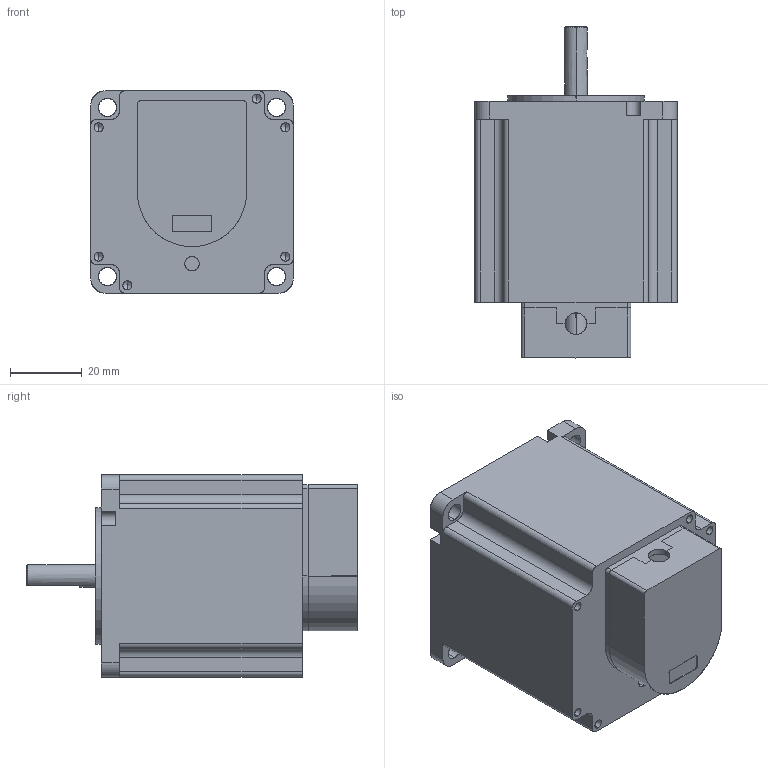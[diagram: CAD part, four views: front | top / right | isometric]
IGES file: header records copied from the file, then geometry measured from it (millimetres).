
Start section: SolidWorks IGES file using analytic representation for surfaces
Global section: file name: C:\Users\Christine\Documents\Arcus\Project #21\STM-23-2-E100\STM-23-2-E100 assy.IGS; native system: SolidWorks 2008; preprocessor: SolidWorks 2008; author: Christine; date: 131002.103153; units: millimetre
Bounding box: 56.4 x 92.5 x 56.4 mm (x, y, z)
Surface area: 28268.2 mm2 (no closed solid volume)
Topology: 0 solids, 0 shells, 213 faces, 3411 edges, 3383 vertices
Faces by surface type: revolution 138, bspline 75
